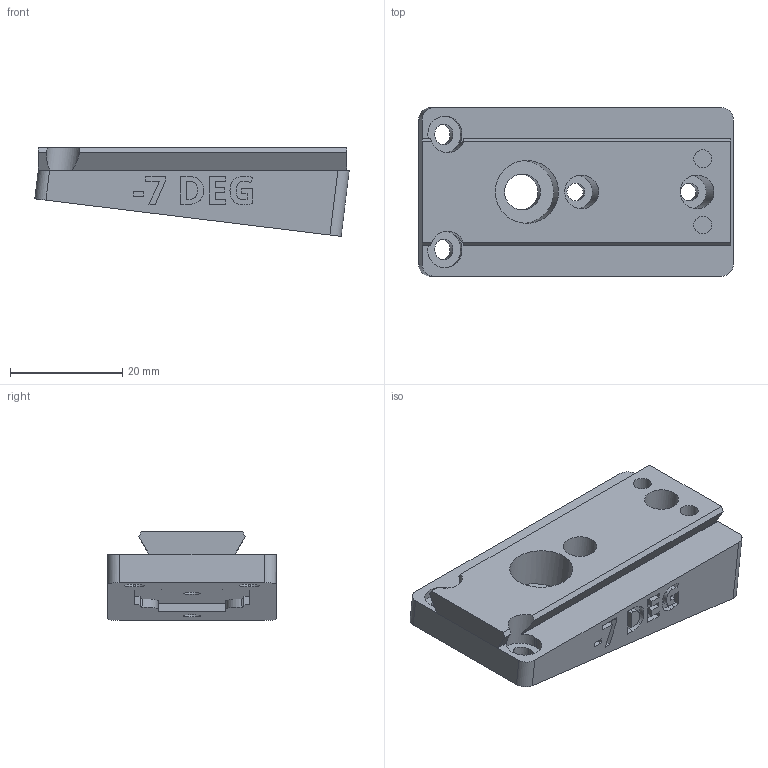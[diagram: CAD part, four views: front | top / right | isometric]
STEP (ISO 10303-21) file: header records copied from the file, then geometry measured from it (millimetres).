
FILE_DESCRIPTION(/* description */ ('STEP AP242 Edition 2','CAx-IF Rec.Pracs.---Representation and Presentation of Product Manufacturing Information (PMI)---4.0---2014-10-13','CAx-IF Rec.Pracs.---3D Tessellated Geometry---0.4---2014-09-14','2;1','CAx-IF Rec.Pracs.---User Defined Attributes---1.5---2016-08-15'),/* implementation_level */ '2;1');
FILE_NAME(/* name */ 'Camera Wedges - CAMERA MOUNTING WEDGE, NEG, -7 DEG',/* time_stamp */ '2026-07-08T20:37:08Z',/* author */ (''),/* organization */ (''),/* preprocessor_version */ 'ST-DEVELOPER v20',/* originating_system */ 'ONSHAPE BY PTC INC, 1.217',/* authorisation */ ' ');
FILE_SCHEMA (('AP242_MANAGED_MODEL_BASED_3D_ENGINEERING_MIM_LF { 1 0 10303 442 3 1 4 }'));
Length unit declared in the file: metre
Products named in the file (1): CAMERA MOUNTING WEDGE, NEG, -7 DEG
Bounding box: 56.03 x 30 x 15.81 mm (x, y, z)
Volume: 15164.1 mm3; surface area: 6683.3 mm2
Topology: 1 solids, 1 shells, 197 faces, 529 edges, 352 vertices
Faces by surface type: plane 133, cylinder 36, bspline 28
Full cylindrical faces by diameter (mm): 3.2 x4, 6 x2, 6.4 x1, 11.2 x1
Entity records: 6225 total; most frequent: CARTESIAN_POINT 1379, ORIENTED_EDGE 1042, DIRECTION 889, EDGE_CURVE 521, LINE 381, VECTOR 381, VERTEX_POINT 352, AXIS2_PLACEMENT_3D 254
